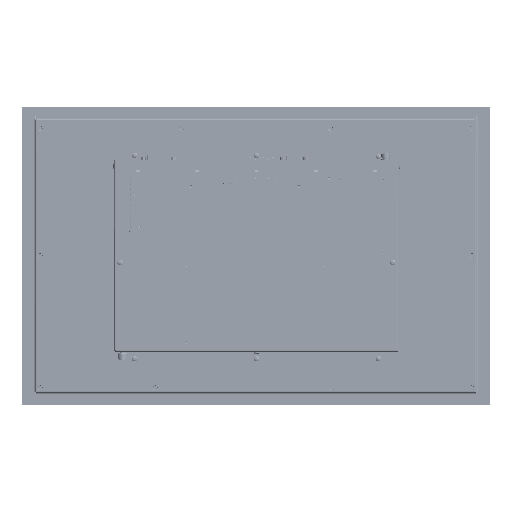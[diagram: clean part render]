
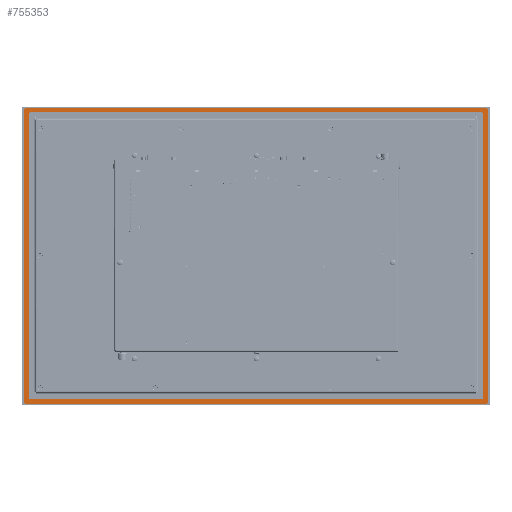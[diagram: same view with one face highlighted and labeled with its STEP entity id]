
A CAD part, front view. The second image highlights one B-rep face of the part: STEP entity #755353.
In plain terms, the highlighted planar face has unit normal (0, -1, 0) as drawn and (0, 1, 0) by its records, which use the part's own axes.
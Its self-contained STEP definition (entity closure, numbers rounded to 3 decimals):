
#6843 = EDGE_CURVE ( 'NONE', #342605, #678707, #404249, .T. ) ;
#10940 = CARTESIAN_POINT ( 'NONE',  ( 249., 2., -157. ) ) ;
#15361 = EDGE_CURVE ( 'NONE', #86928, #326082, #710956, .T. ) ;
#16478 = VERTEX_POINT ( 'NONE', #632803 ) ;
#23350 = ORIENTED_EDGE ( 'NONE', *, *, #291828, .T. ) ;
#30404 = LINE ( 'NONE', #302134, #256827 ) ;
#32416 = EDGE_CURVE ( 'NONE', #422030, #86928, #243300, .T. ) ;
#33699 = CARTESIAN_POINT ( 'NONE',  ( -247., 2., 159. ) ) ;
#35962 = DIRECTION ( 'NONE',  ( -1., 0., 0. ) ) ;
#37693 = ORIENTED_EDGE ( 'NONE', *, *, #358347, .T. ) ;
#38618 = DIRECTION ( 'NONE',  ( 0., 1., 0. ) ) ;
#61111 = AXIS2_PLACEMENT_3D ( 'NONE', #549024, #427876, #667478 ) ;
#65786 = ORIENTED_EDGE ( 'NONE', *, *, #768021, .T. ) ;
#69796 = VECTOR ( 'NONE', #247144, 1000. ) ;
#74812 = EDGE_CURVE ( 'NONE', #493086, #422030, #687354, .T. ) ;
#78175 = CARTESIAN_POINT ( 'NONE',  ( -243., 2., 153. ) ) ;
#86595 = CARTESIAN_POINT ( 'NONE',  ( -244., 2., 153. ) ) ;
#86928 = VERTEX_POINT ( 'NONE', #463369 ) ;
#91461 = CARTESIAN_POINT ( 'NONE',  ( 247., 2., 159. ) ) ;
#91926 = CARTESIAN_POINT ( 'NONE',  ( -243., 2., 154. ) ) ;
#100805 = ORIENTED_EDGE ( 'NONE', *, *, #312541, .T. ) ;
#102447 = DIRECTION ( 'NONE',  ( 0., 0., -1. ) ) ;
#119044 = FACE_BOUND ( 'NONE', #198571, .T. ) ;
#124226 = CARTESIAN_POINT ( 'NONE',  ( 244., 2., -153. ) ) ;
#131218 = EDGE_CURVE ( 'NONE', #699136, #451998, #796552, .T. ) ;
#136564 = VECTOR ( 'NONE', #500206, 1000. ) ;
#137721 = CARTESIAN_POINT ( 'NONE',  ( -243., 2., -153. ) ) ;
#141751 = ORIENTED_EDGE ( 'NONE', *, *, #15361, .T. ) ;
#150406 = LINE ( 'NONE', #86595, #790360 ) ;
#150649 = ORIENTED_EDGE ( 'NONE', *, *, #695684, .T. ) ;
#163602 = AXIS2_PLACEMENT_3D ( 'NONE', #243947, #183413, #805123 ) ;
#174606 = LINE ( 'NONE', #124226, #262865 ) ;
#176981 = ORIENTED_EDGE ( 'NONE', *, *, #32416, .T. ) ;
#179332 = DIRECTION ( 'NONE',  ( 0., 1., 0. ) ) ;
#183413 = DIRECTION ( 'NONE',  ( 0., -1., 0. ) ) ;
#187438 = AXIS2_PLACEMENT_3D ( 'NONE', #78175, #207278, #583906 ) ;
#189095 = CIRCLE ( 'NONE', #502521, 2. ) ;
#198571 = EDGE_LOOP ( 'NONE', ( #263047, #65786, #551544, #593452, #276296, #23350, #37693, #646756 ) ) ;
#201639 = ORIENTED_EDGE ( 'NONE', *, *, #6843, .T. ) ;
#204892 = CARTESIAN_POINT ( 'NONE',  ( -249., 2., 157. ) ) ;
#207278 = DIRECTION ( 'NONE',  ( 0., -1., 0. ) ) ;
#211843 = DIRECTION ( 'NONE',  ( 0., 0., 1. ) ) ;
#211879 = AXIS2_PLACEMENT_3D ( 'NONE', #367234, #612228, #615009 ) ;
#218292 = DIRECTION ( 'NONE',  ( 0., 0., -1. ) ) ;
#218841 = AXIS2_PLACEMENT_3D ( 'NONE', #673816, #38618, #35962 ) ;
#221649 = ORIENTED_EDGE ( 'NONE', *, *, #433574, .T. ) ;
#228875 = DIRECTION ( 'NONE',  ( 1., 0., 0. ) ) ;
#243300 = CIRCLE ( 'NONE', #218841, 2. ) ;
#243947 = CARTESIAN_POINT ( 'NONE',  ( 243., 2., 153. ) ) ;
#245161 = VERTEX_POINT ( 'NONE', #683383 ) ;
#245765 = AXIS2_PLACEMENT_3D ( 'NONE', #674452, #487274, #102447 ) ;
#247144 = DIRECTION ( 'NONE',  ( -1., 0., 0. ) ) ;
#254824 = CARTESIAN_POINT ( 'NONE',  ( 247., 2., -159. ) ) ;
#256827 = VECTOR ( 'NONE', #423015, 1000. ) ;
#262865 = VECTOR ( 'NONE', #495295, 1000. ) ;
#263047 = ORIENTED_EDGE ( 'NONE', *, *, #379800, .T. ) ;
#266821 = CARTESIAN_POINT ( 'NONE',  ( -249., 2., -157. ) ) ;
#276296 = ORIENTED_EDGE ( 'NONE', *, *, #531210, .T. ) ;
#287860 = DIRECTION ( 'NONE',  ( 0., 0., 1. ) ) ;
#291828 = EDGE_CURVE ( 'NONE', #16478, #493869, #150406, .T. ) ;
#302134 = CARTESIAN_POINT ( 'NONE',  ( 243., 2., 154. ) ) ;
#304884 = AXIS2_PLACEMENT_3D ( 'NONE', #492699, #179332, #737728 ) ;
#310396 = CARTESIAN_POINT ( 'NONE',  ( 247., 2., -159. ) ) ;
#312541 = EDGE_CURVE ( 'NONE', #460538, #571362, #806903, .T. ) ;
#326082 = VERTEX_POINT ( 'NONE', #91461 ) ;
#342605 = VERTEX_POINT ( 'NONE', #254824 ) ;
#348492 = CARTESIAN_POINT ( 'NONE',  ( -244., 2., -153. ) ) ;
#354665 = FACE_OUTER_BOUND ( 'NONE', #356258, .T. ) ;
#356258 = EDGE_LOOP ( 'NONE', ( #772152, #176981, #141751, #597792, #100805, #150649, #201639, #221649 ) ) ;
#358347 = EDGE_CURVE ( 'NONE', #493869, #699136, #399564, .T. ) ;
#367234 = CARTESIAN_POINT ( 'NONE',  ( 0., 2., 0. ) ) ;
#379800 = EDGE_CURVE ( 'NONE', #451998, #624070, #578378, .T. ) ;
#399564 = CIRCLE ( 'NONE', #792957, 1. ) ;
#402554 = DIRECTION ( 'NONE',  ( 0., 0., -1. ) ) ;
#404249 = LINE ( 'NONE', #310396, #69796 ) ;
#420364 = CARTESIAN_POINT ( 'NONE',  ( 249., 2., 157. ) ) ;
#420424 = CARTESIAN_POINT ( 'NONE',  ( -247., 2., -159. ) ) ;
#422013 = CIRCLE ( 'NONE', #163602, 1. ) ;
#422030 = VERTEX_POINT ( 'NONE', #204892 ) ;
#423015 = DIRECTION ( 'NONE',  ( -1., 0., 0. ) ) ;
#427876 = DIRECTION ( 'NONE',  ( 0., 1., 0. ) ) ;
#433574 = EDGE_CURVE ( 'NONE', #678707, #493086, #667496, .T. ) ;
#436879 = CARTESIAN_POINT ( 'NONE',  ( -243., 2., -154. ) ) ;
#439296 = EDGE_CURVE ( 'NONE', #245161, #458424, #422013, .T. ) ;
#451998 = VERTEX_POINT ( 'NONE', #664626 ) ;
#458424 = VERTEX_POINT ( 'NONE', #600096 ) ;
#458550 = CARTESIAN_POINT ( 'NONE',  ( 244., 2., -153. ) ) ;
#460538 = VERTEX_POINT ( 'NONE', #420364 ) ;
#463369 = CARTESIAN_POINT ( 'NONE',  ( -247., 2., 159. ) ) ;
#487274 = DIRECTION ( 'NONE',  ( 0., -1., 0. ) ) ;
#492699 = CARTESIAN_POINT ( 'NONE',  ( 247., 2., -157. ) ) ;
#493086 = VERTEX_POINT ( 'NONE', #567509 ) ;
#493869 = VERTEX_POINT ( 'NONE', #348492 ) ;
#495295 = DIRECTION ( 'NONE',  ( 0., 0., 1. ) ) ;
#500206 = DIRECTION ( 'NONE',  ( 1., 0., 0. ) ) ;
#502521 = AXIS2_PLACEMENT_3D ( 'NONE', #783169, #601420, #287860 ) ;
#504048 = CIRCLE ( 'NONE', #187438, 1. ) ;
#531210 = EDGE_CURVE ( 'NONE', #742277, #16478, #504048, .T. ) ;
#549024 = CARTESIAN_POINT ( 'NONE',  ( -247., 2., -157. ) ) ;
#549038 = CARTESIAN_POINT ( 'NONE',  ( -243., 2., -154. ) ) ;
#551544 = ORIENTED_EDGE ( 'NONE', *, *, #439296, .T. ) ;
#567509 = CARTESIAN_POINT ( 'NONE',  ( -249., 2., -157. ) ) ;
#569497 = VECTOR ( 'NONE', #211843, 1000. ) ;
#571362 = VERTEX_POINT ( 'NONE', #10940 ) ;
#577570 = DIRECTION ( 'NONE',  ( 0., -1., 0. ) ) ;
#578378 = CIRCLE ( 'NONE', #245765, 1. ) ;
#580755 = EDGE_CURVE ( 'NONE', #458424, #742277, #30404, .T. ) ;
#583906 = DIRECTION ( 'NONE',  ( 0., 0., 1. ) ) ;
#593452 = ORIENTED_EDGE ( 'NONE', *, *, #580755, .T. ) ;
#597792 = ORIENTED_EDGE ( 'NONE', *, *, #721194, .T. ) ;
#600096 = CARTESIAN_POINT ( 'NONE',  ( 243., 2., 154. ) ) ;
#601420 = DIRECTION ( 'NONE',  ( 0., 1., 0. ) ) ;
#612228 = DIRECTION ( 'NONE',  ( 0., 1., 0. ) ) ;
#615009 = DIRECTION ( 'NONE',  ( 1., 0., 0. ) ) ;
#624070 = VERTEX_POINT ( 'NONE', #458550 ) ;
#632803 = CARTESIAN_POINT ( 'NONE',  ( -244., 2., 153. ) ) ;
#646756 = ORIENTED_EDGE ( 'NONE', *, *, #131218, .T. ) ;
#664626 = CARTESIAN_POINT ( 'NONE',  ( 243., 2., -154. ) ) ;
#667478 = DIRECTION ( 'NONE',  ( 0., 0., -1. ) ) ;
#667496 = CIRCLE ( 'NONE', #61111, 2. ) ;
#673816 = CARTESIAN_POINT ( 'NONE',  ( -247., 2., 157. ) ) ;
#674452 = CARTESIAN_POINT ( 'NONE',  ( 243., 2., -153. ) ) ;
#678707 = VERTEX_POINT ( 'NONE', #420424 ) ;
#683383 = CARTESIAN_POINT ( 'NONE',  ( 244., 2., 153. ) ) ;
#686562 = PLANE ( 'NONE',  #211879 ) ;
#687354 = LINE ( 'NONE', #266821, #569497 ) ;
#695684 = EDGE_CURVE ( 'NONE', #571362, #342605, #739648, .T. ) ;
#699136 = VERTEX_POINT ( 'NONE', #549038 ) ;
#710164 = VECTOR ( 'NONE', #228875, 1000. ) ;
#710956 = LINE ( 'NONE', #33699, #710164 ) ;
#721194 = EDGE_CURVE ( 'NONE', #326082, #460538, #189095, .T. ) ;
#737728 = DIRECTION ( 'NONE',  ( 1., 0., 0. ) ) ;
#739648 = CIRCLE ( 'NONE', #304884, 2. ) ;
#742277 = VERTEX_POINT ( 'NONE', #91926 ) ;
#747621 = VECTOR ( 'NONE', #218292, 1000. ) ;
#753907 = DIRECTION ( 'NONE',  ( -1., 0., 0. ) ) ;
#755353 = ADVANCED_FACE ( 'NONE', ( #119044, #354665 ), #686562, .T. ) ;
#768021 = EDGE_CURVE ( 'NONE', #624070, #245161, #174606, .T. ) ;
#772152 = ORIENTED_EDGE ( 'NONE', *, *, #74812, .T. ) ;
#783169 = CARTESIAN_POINT ( 'NONE',  ( 247., 2., 157. ) ) ;
#784909 = CARTESIAN_POINT ( 'NONE',  ( 249., 2., 157. ) ) ;
#790360 = VECTOR ( 'NONE', #402554, 1000. ) ;
#792957 = AXIS2_PLACEMENT_3D ( 'NONE', #137721, #577570, #753907 ) ;
#796552 = LINE ( 'NONE', #436879, #136564 ) ;
#805123 = DIRECTION ( 'NONE',  ( 1., 0., 0. ) ) ;
#806903 = LINE ( 'NONE', #784909, #747621 ) ;
